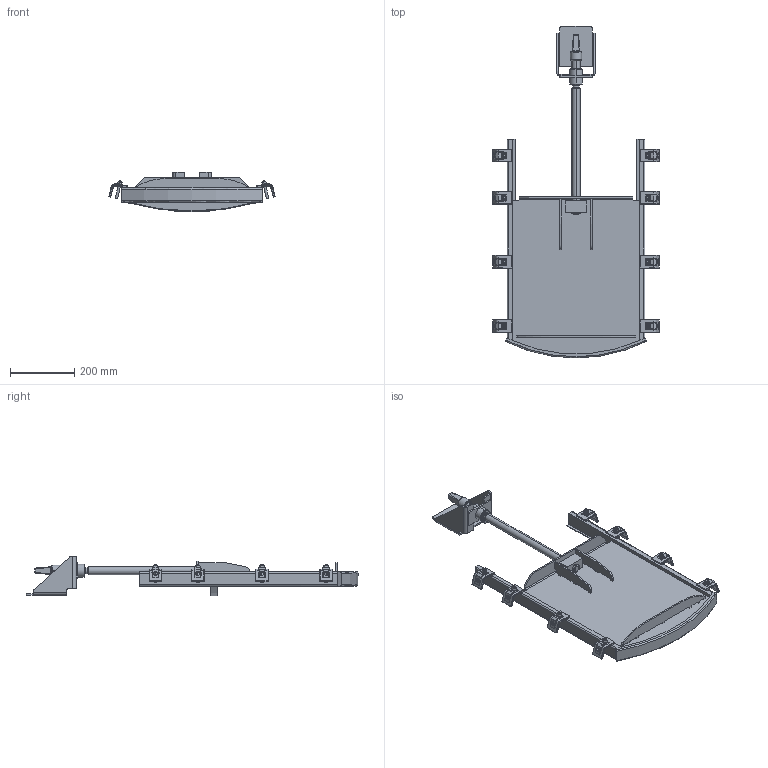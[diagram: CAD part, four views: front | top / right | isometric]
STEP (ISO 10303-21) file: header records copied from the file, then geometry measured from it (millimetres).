
FILE_DESCRIPTION (( 'STEP AP214' ), '1' );
FILE_NAME ('LW 350 Schacht1500 betoniert.STEP', '2022-05-20T08:53:55', ( '' ), ( '' ), 'SwSTEP 2.0', 'SolidWorks 2021', '' );
FILE_SCHEMA (( 'AUTOMOTIVE_DESIGN' ));
Length unit declared in the file: millimetre
Products named in the file (1): LW 350 Schacht1500 betoniert
Bounding box: 519.38 x 1035 x 121.99 mm (x, y, z)
Volume: 3379266.2 mm3; surface area: 1001193.3 mm2
Topology: 1 solids, 9 shells, 1344 faces, 3200 edges, 1802 vertices
Faces by surface type: cylinder 535, plane 389, cone 118, sphere 112, torus 104, bspline 86
Entity records: 56488 total; most frequent: CARTESIAN_POINT 11809, DIRECTION 6448, ORIENTED_EDGE 6168, EDGE_CURVE 3084, AXIS2_PLACEMENT_3D 2545, VERTEX_POINT 1786, EDGE_LOOP 1442, LINE 1358
